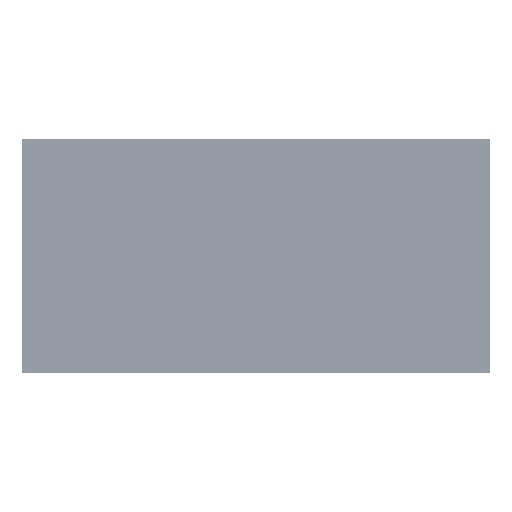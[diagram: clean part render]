
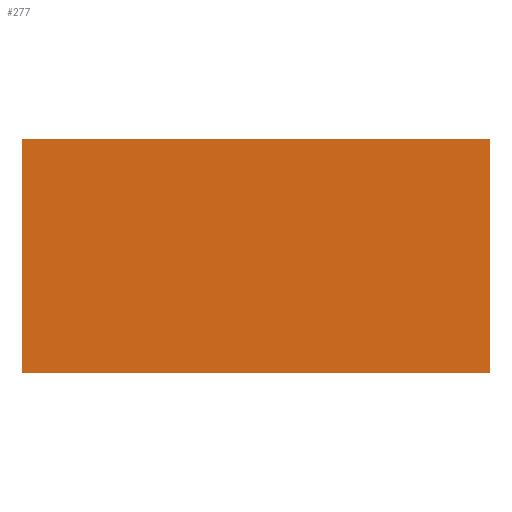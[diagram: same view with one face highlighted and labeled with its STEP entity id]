
A CAD part, top view. The second image highlights one B-rep face of the part: STEP entity #277.
In plain terms, the highlighted planar face has unit normal (0, 0, 1).
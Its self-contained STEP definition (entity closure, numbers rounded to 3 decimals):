
#277=ADVANCED_FACE($,(#553),#3549,.T.);
#553=FACE_OUTER_BOUND($,#860,.T.);
#860=EDGE_LOOP($,(#1540,#1541,#1542,#1543));
#1540=ORIENTED_EDGE($,*,*,#2547,.F.);
#1541=ORIENTED_EDGE($,*,*,#2546,.F.);
#1542=ORIENTED_EDGE($,*,*,#2545,.F.);
#1543=ORIENTED_EDGE($,*,*,#2544,.F.);
#2544=EDGE_CURVE($,#3091,#3092,#3724,.T.);
#2545=EDGE_CURVE($,#3092,#3093,#3725,.T.);
#2546=EDGE_CURVE($,#3093,#3094,#3726,.T.);
#2547=EDGE_CURVE($,#3094,#3091,#3727,.T.);
#3091=VERTEX_POINT($,#11674);
#3092=VERTEX_POINT($,#11675);
#3093=VERTEX_POINT($,#11676);
#3094=VERTEX_POINT($,#11677);
#3549=PLANE($,#4357);
#3724=B_SPLINE_CURVE_WITH_KNOTS($,1,(#11648,#11649),.UNSPECIFIED.,.F.,.F.,
(2,2),(0.,900.),.UNSPECIFIED.);
#3725=B_SPLINE_CURVE_WITH_KNOTS($,1,(#11650,#11651),.UNSPECIFIED.,.F.,.F.,
(2,2),(0.,1800.),.UNSPECIFIED.);
#3726=B_SPLINE_CURVE_WITH_KNOTS($,1,(#11652,#11653),.UNSPECIFIED.,.F.,.F.,
(2,2),(0.,900.),.UNSPECIFIED.);
#3727=B_SPLINE_CURVE_WITH_KNOTS($,1,(#11654,#11655),.UNSPECIFIED.,.F.,.F.,
(2,2),(0.,1800.),.UNSPECIFIED.);
#4357=AXIS2_PLACEMENT_3D($,#11669,#4464,$);
#4464=DIRECTION($,(0.,0.,1.));
#11648=CARTESIAN_POINT($,(394.5,-71.,746.));
#11649=CARTESIAN_POINT($,(394.5,829.,746.));
#11650=CARTESIAN_POINT($,(394.5,829.,746.));
#11651=CARTESIAN_POINT($,(2194.5,829.,746.));
#11652=CARTESIAN_POINT($,(2194.5,829.,746.));
#11653=CARTESIAN_POINT($,(2194.5,-71.,746.));
#11654=CARTESIAN_POINT($,(2194.5,-71.,746.));
#11655=CARTESIAN_POINT($,(394.5,-71.,746.));
#11669=CARTESIAN_POINT($,(394.5,-71.,746.));
#11674=CARTESIAN_POINT($,(394.5,-71.,746.));
#11675=CARTESIAN_POINT($,(394.5,829.,746.));
#11676=CARTESIAN_POINT($,(2194.5,829.,746.));
#11677=CARTESIAN_POINT($,(2194.5,-71.,746.));
